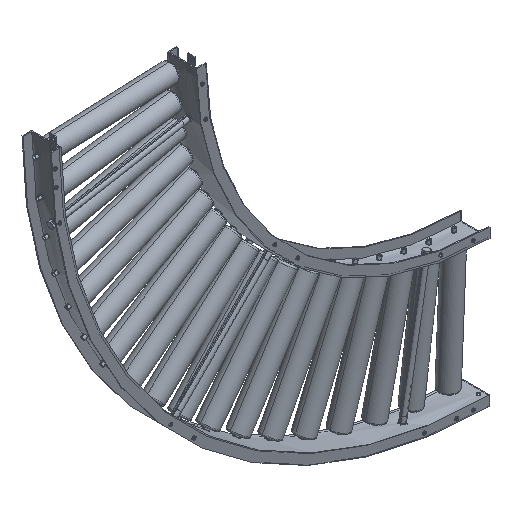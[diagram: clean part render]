
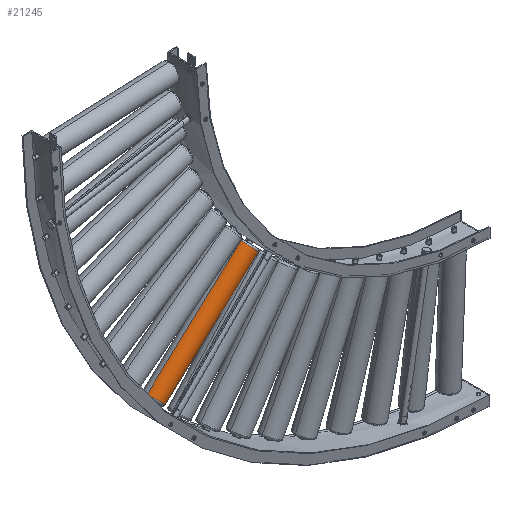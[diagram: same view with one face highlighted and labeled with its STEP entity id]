
A CAD part, isometric view. The second image highlights one B-rep face of the part: STEP entity #21245.
In plain terms, the highlighted cylindrical face has radius 28.6 mm (diameter 57.2 mm), a partial arc.
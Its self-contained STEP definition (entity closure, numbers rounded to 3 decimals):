
#381 = CARTESIAN_POINT ( 'NONE',  ( -47.876, 46.699, -166.476 ) ) ;
#2162 = ORIENTED_EDGE ( 'NONE', *, *, #7617, .T. ) ;
#3176 = DIRECTION ( 'NONE',  ( -0.676, 0., 0.737 ) ) ;
#3320 = DIRECTION ( 'NONE',  ( -0.737, 0., -0.676 ) ) ;
#3375 = CARTESIAN_POINT ( 'NONE',  ( -24.867, 46.699, -184.184 ) ) ;
#3485 = CYLINDRICAL_SURFACE ( 'NONE', #24893, 28.6 ) ;
#3586 = CARTESIAN_POINT ( 'NONE',  ( -335.414, 46.699, -429.956 ) ) ;
#5488 = FACE_OUTER_BOUND ( 'NONE', #7984, .T. ) ;
#7144 = VECTOR ( 'NONE', #19909, 1000. ) ;
#7210 = CARTESIAN_POINT ( 'NONE',  ( -316.092, 46.699, -451.042 ) ) ;
#7617 = EDGE_CURVE ( 'NONE', #11965, #11425, #18130, .T. ) ;
#7984 = EDGE_LOOP ( 'NONE', ( #17394, #2162, #9563, #23258 ) ) ;
#9563 = ORIENTED_EDGE ( 'NONE', *, *, #20123, .T. ) ;
#10676 = CARTESIAN_POINT ( 'NONE',  ( -354.736, 46.699, -408.87 ) ) ;
#11425 = VERTEX_POINT ( 'NONE', #17107 ) ;
#11965 = VERTEX_POINT ( 'NONE', #29269 ) ;
#12389 = VERTEX_POINT ( 'NONE', #10676 ) ;
#12444 = DIRECTION ( 'NONE',  ( 0.676, 0., -0.737 ) ) ;
#15192 = DIRECTION ( 'NONE',  ( 0.737, 0., 0.676 ) ) ;
#15244 = CARTESIAN_POINT ( 'NONE',  ( -44.189, 46.699, -163.098 ) ) ;
#15394 = DIRECTION ( 'NONE',  ( -0.737, 0., -0.676 ) ) ;
#15917 = LINE ( 'NONE', #20553, #16445 ) ;
#16445 = VECTOR ( 'NONE', #18698, 1000. ) ;
#17107 = CARTESIAN_POINT ( 'NONE',  ( -67.197, 46.699, -145.39 ) ) ;
#17394 = ORIENTED_EDGE ( 'NONE', *, *, #24457, .F. ) ;
#17563 = EDGE_CURVE ( 'NONE', #12389, #25592, #28598, .T. ) ;
#18130 = CIRCLE ( 'NONE', #29436, 28.6 ) ;
#18698 = DIRECTION ( 'NONE',  ( -0.737, 0., -0.676 ) ) ;
#19212 = AXIS2_PLACEMENT_3D ( 'NONE', #3586, #15192, #29570 ) ;
#19909 = DIRECTION ( 'NONE',  ( -0.737, 0., -0.676 ) ) ;
#20123 = EDGE_CURVE ( 'NONE', #11425, #12389, #15917, .T. ) ;
#20553 = CARTESIAN_POINT ( 'NONE',  ( -63.511, 46.699, -142.012 ) ) ;
#21245 = ADVANCED_FACE ( 'NONE', ( #5488 ), #3485, .T. ) ;
#23258 = ORIENTED_EDGE ( 'NONE', *, *, #17563, .T. ) ;
#24457 = EDGE_CURVE ( 'NONE', #11965, #25592, #24561, .T. ) ;
#24561 = LINE ( 'NONE', #3375, #7144 ) ;
#24893 = AXIS2_PLACEMENT_3D ( 'NONE', #15244, #15394, #3176 ) ;
#25592 = VERTEX_POINT ( 'NONE', #7210 ) ;
#28598 = CIRCLE ( 'NONE', #19212, 28.6 ) ;
#29269 = CARTESIAN_POINT ( 'NONE',  ( -28.554, 46.699, -187.562 ) ) ;
#29436 = AXIS2_PLACEMENT_3D ( 'NONE', #381, #3320, #12444 ) ;
#29570 = DIRECTION ( 'NONE',  ( 0.676, 0., -0.737 ) ) ;
